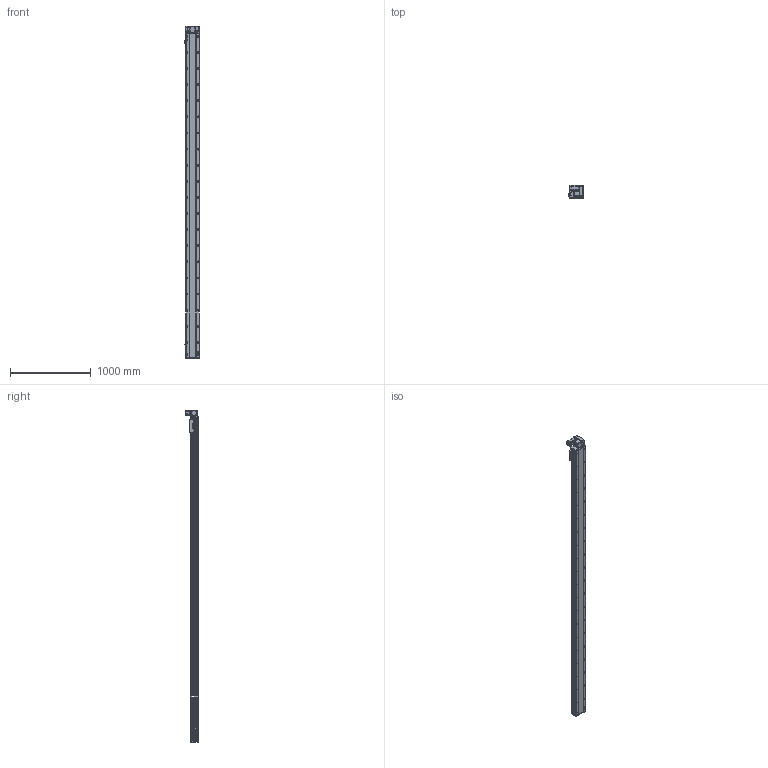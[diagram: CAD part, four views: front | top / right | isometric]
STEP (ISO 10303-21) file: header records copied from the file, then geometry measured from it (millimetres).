
FILE_DESCRIPTION (( 'STEP AP214' ), '1' );
FILE_NAME ('RTB17S-XX-3750-RW-M40-C4.STEP', '2025-12-11T09:23:19', ( '' ), ( '' ), 'SwSTEP 2.0', 'SolidWorks 2018', '' );
FILE_SCHEMA (( 'AUTOMOTIVE_DESIGN' ));
Length unit declared in the file: millimetre
Products named in the file (14): OMRON EE-SX672 传感器^RTB17S-XX-XX-RW-M40-C4; 400W侜督萇儂^RTB17S-XX-XX-RW-M40-C4; RTB17S-L-007奻裔^RTB17S-XX-XX-RW-M40-C4; RTB14-L-005P--轴承塑胶压盖^RTB17S-RW-皮带座装配-400W_RTB17S-XX-XX-RW-M40-C4; RMP17S-L-014-T20--々湍釱^RTB17S-RW-々湍釱蚾饜-400W_RTB17S-XX-XX-RW-M40-C4; RTB17-R-011菁釱^RTB17S-XX-XX-RW-M40-C4; RTB17S-L-001耜醱啣^RTB17S-XX-XX-RW-M40-C4; RTB14-L-017P^RTB17S-RW-々湍釱蚾饜-400W_RTB17S-XX-XX-RW-M40-C4; RTB14-L-018P^RTB17S-RW-々湍釱蚾饜-400W_RTB17S-XX-XX-RW-M40-C4; RTH13-BL-012覜茼え俋离^RTB17S-XX-XX-RW-M40-C4; RTB17S-L-004佪裝蹟譫蟀諉釱^RTB17S-XX-XX-RW-M40-C4; RTB17S-RW-々湍釱蚾饜-400W^RTB17S-XX-XX-RW-M40-C4; RTB14-L-008-M20--萇儂啣^RTB17S-RW-々湍釱蚾饜-400W_RTB17S-XX-XX-RW-M40-C4; RTB17S-XX-3750-RW-M40-C4
Assembly tree (16 placements, depth 3):
  RTB17S-XX-3750-RW-M40-C4
    RTB17-R-011菁釱^RTB17S-XX-XX-RW-M40-C4
    RTB17S-L-007奻裔^RTB17S-XX-XX-RW-M40-C4
    OMRON EE-SX672 传感器^RTB17S-XX-XX-RW-M40-C4  x3
    RTB17S-L-001耜醱啣^RTB17S-XX-XX-RW-M40-C4
    400W侜督萇儂^RTB17S-XX-XX-RW-M40-C4
    RTB17S-L-004佪裝蹟譫蟀諉釱^RTB17S-XX-XX-RW-M40-C4
    RTH13-BL-012覜茼え俋离^RTB17S-XX-XX-RW-M40-C4
    RTB17S-RW-々湍釱蚾饜-400W^RTB17S-XX-XX-RW-M40-C4
      RMP17S-L-014-T20--々湍釱^RTB17S-RW-々湍釱蚾饜-400W_RTB17S-XX-XX-RW-M40-C4
      RTB14-L-005P--轴承塑胶压盖^RTB17S-RW-皮带座装配-400W_RTB17S-XX-XX-RW-M40-C4
      RTB14-L-008-M20--萇儂啣^RTB17S-RW-々湍釱蚾饜-400W_RTB17S-XX-XX-RW-M40-C4
      RTB14-L-017P^RTB17S-RW-々湍釱蚾饜-400W_RTB17S-XX-XX-RW-M40-C4  x2
      RTB14-L-018P^RTB17S-RW-々湍釱蚾饜-400W_RTB17S-XX-XX-RW-M40-C4
Bounding box: 183.5 x 160.5 x 4122.5 mm (x, y, z)
Volume: 34800353.1 mm3; surface area: 3943616.1 mm2
Topology: 15 solids, 15 shells, 2429 faces, 6843 edges, 4473 vertices
Faces by surface type: plane 1096, cylinder 885, bspline 301, cone 139, torus 8
Entity records: 73385 total; most frequent: CARTESIAN_POINT 21048, ORIENTED_EDGE 10530, DIRECTION 9656, EDGE_CURVE 5265, VERTEX_POINT 3461, AXIS2_PLACEMENT_3D 3391, VECTOR 2874, LINE 2874
